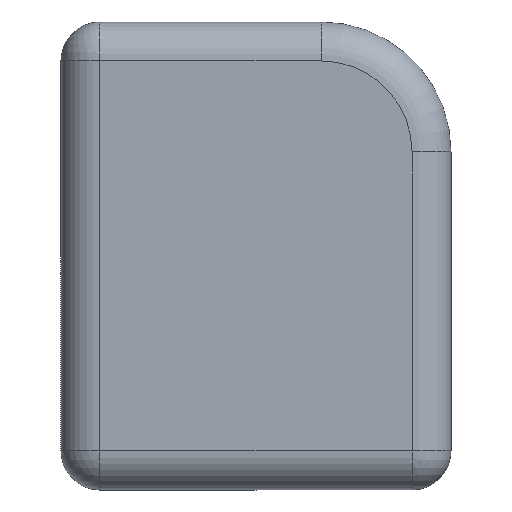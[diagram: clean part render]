
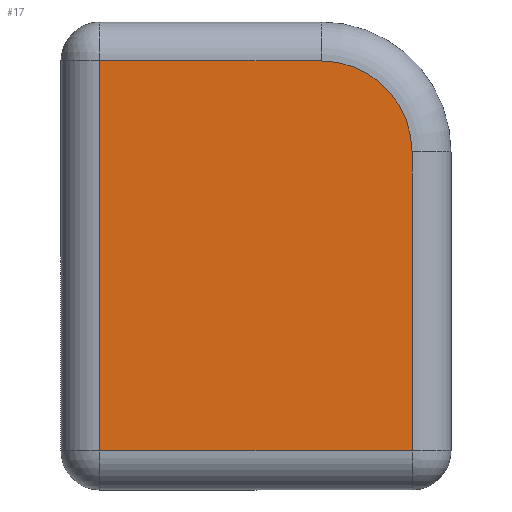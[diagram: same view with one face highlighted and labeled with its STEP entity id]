
A CAD part, top view. The second image highlights one B-rep face of the part: STEP entity #17.
In plain terms, the highlighted planar face has unit normal (0, 0, 1).
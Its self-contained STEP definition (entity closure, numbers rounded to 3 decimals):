
#7 = DIRECTION ( 'NONE',  ( 1., 0., 0. ) ) ;
#17 = ADVANCED_FACE ( 'NONE', ( #58 ), #244, .T. ) ;
#43 = VECTOR ( 'NONE', #417, 1000. ) ;
#58 = FACE_OUTER_BOUND ( 'NONE', #187, .T. ) ;
#185 = CARTESIAN_POINT ( 'NONE',  ( 12., 11., 1.5 ) ) ;
#187 = EDGE_LOOP ( 'NONE', ( #533, #527, #536, #829, #477 ) ) ;
#191 = VECTOR ( 'NONE', #571, 1000. ) ;
#201 = VECTOR ( 'NONE', #633, 1000. ) ;
#205 = EDGE_CURVE ( 'NONE', #462, #329, #479, .T. ) ;
#236 = CIRCLE ( 'NONE', #849, 7. ) ;
#241 = LINE ( 'NONE', #446, #191 ) ;
#244 = PLANE ( 'NONE',  #383 ) ;
#246 = CARTESIAN_POINT ( 'NONE',  ( 12., -12., 1.5 ) ) ;
#265 = EDGE_CURVE ( 'NONE', #740, #403, #298, .T. ) ;
#287 = CARTESIAN_POINT ( 'NONE',  ( -12., 18., 1.5 ) ) ;
#293 = VERTEX_POINT ( 'NONE', #727 ) ;
#298 = LINE ( 'NONE', #637, #201 ) ;
#329 = VERTEX_POINT ( 'NONE', #666 ) ;
#338 = DIRECTION ( 'NONE',  ( 1., 0., 0. ) ) ;
#369 = DIRECTION ( 'NONE',  ( 1., 0., 0. ) ) ;
#383 = AXIS2_PLACEMENT_3D ( 'NONE', #786, #781, #338 ) ;
#403 = VERTEX_POINT ( 'NONE', #185 ) ;
#417 = DIRECTION ( 'NONE',  ( 0., -1., 0. ) ) ;
#436 = EDGE_CURVE ( 'NONE', #403, #293, #236, .T. ) ;
#446 = CARTESIAN_POINT ( 'NONE',  ( -12., 18., 1.5 ) ) ;
#462 = VERTEX_POINT ( 'NONE', #287 ) ;
#477 = ORIENTED_EDGE ( 'NONE', *, *, #755, .T. ) ;
#479 = LINE ( 'NONE', #747, #43 ) ;
#527 = ORIENTED_EDGE ( 'NONE', *, *, #669, .T. ) ;
#533 = ORIENTED_EDGE ( 'NONE', *, *, #205, .T. ) ;
#536 = ORIENTED_EDGE ( 'NONE', *, *, #265, .T. ) ;
#553 = CARTESIAN_POINT ( 'NONE',  ( 5., 11., 1.5 ) ) ;
#566 = CARTESIAN_POINT ( 'NONE',  ( 12., -12., 1.5 ) ) ;
#571 = DIRECTION ( 'NONE',  ( -1., 0., 0. ) ) ;
#615 = DIRECTION ( 'NONE',  ( 0., 0., 1. ) ) ;
#633 = DIRECTION ( 'NONE',  ( 0., 1., 0. ) ) ;
#637 = CARTESIAN_POINT ( 'NONE',  ( 12., 11., 1.5 ) ) ;
#666 = CARTESIAN_POINT ( 'NONE',  ( -12., -12., 1.5 ) ) ;
#669 = EDGE_CURVE ( 'NONE', #329, #740, #768, .T. ) ;
#727 = CARTESIAN_POINT ( 'NONE',  ( 5., 18., 1.5 ) ) ;
#740 = VERTEX_POINT ( 'NONE', #246 ) ;
#747 = CARTESIAN_POINT ( 'NONE',  ( -12., -12., 1.5 ) ) ;
#755 = EDGE_CURVE ( 'NONE', #293, #462, #241, .T. ) ;
#768 = LINE ( 'NONE', #566, #837 ) ;
#781 = DIRECTION ( 'NONE',  ( 0., 0., 1. ) ) ;
#786 = CARTESIAN_POINT ( 'NONE',  ( 15., 21., 1.5 ) ) ;
#829 = ORIENTED_EDGE ( 'NONE', *, *, #436, .T. ) ;
#837 = VECTOR ( 'NONE', #369, 1000. ) ;
#849 = AXIS2_PLACEMENT_3D ( 'NONE', #553, #615, #7 ) ;
